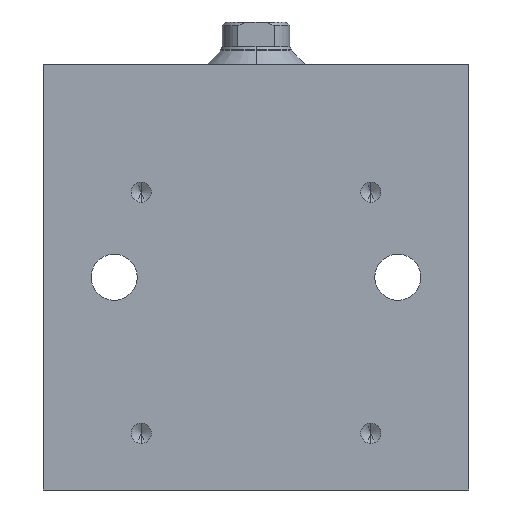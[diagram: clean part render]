
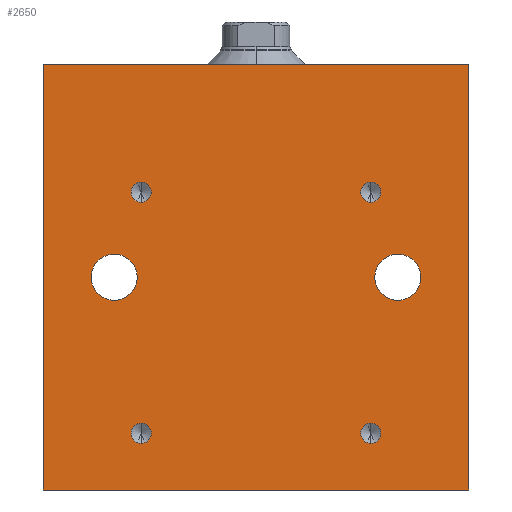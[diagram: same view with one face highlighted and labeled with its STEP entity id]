
A CAD part, left-side view. The second image highlights one B-rep face of the part: STEP entity #2650.
In plain terms, the highlighted planar face has unit normal (-1, 0, 0).
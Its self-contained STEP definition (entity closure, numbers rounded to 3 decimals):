
#12 = ORIENTED_EDGE ( 'NONE', *, *, #91, .F. ) ;
#45 = EDGE_LOOP ( 'NONE', ( #1604, #522, #1491, #3841 ) ) ;
#71 = DIRECTION ( 'NONE',  ( 0., 0., 1. ) ) ;
#88 = CIRCLE ( 'NONE', #1516, 3.25 ) ;
#89 = CARTESIAN_POINT ( 'NONE',  ( -17.5, 30., -66. ) ) ;
#91 = EDGE_CURVE ( 'NONE', #1209, #2430, #3254, .T. ) ;
#116 = AXIS2_PLACEMENT_3D ( 'NONE', #2322, #3571, #789 ) ;
#158 = DIRECTION ( 'NONE',  ( 0., -1., 0. ) ) ;
#194 = ORIENTED_EDGE ( 'NONE', *, *, #2569, .T. ) ;
#224 = VERTEX_POINT ( 'NONE', #3225 ) ;
#268 = ORIENTED_EDGE ( 'NONE', *, *, #2367, .F. ) ;
#308 = DIRECTION ( 'NONE',  ( -1., 0., 0. ) ) ;
#319 = VERTEX_POINT ( 'NONE', #1964 ) ;
#328 = DIRECTION ( 'NONE',  ( 0., 0., 1. ) ) ;
#338 = EDGE_CURVE ( 'NONE', #2947, #1895, #3245, .T. ) ;
#358 = DIRECTION ( 'NONE',  ( -1., 0., 0. ) ) ;
#374 = CARTESIAN_POINT ( 'NONE',  ( -17.5, 16.2, -58. ) ) ;
#446 = EDGE_LOOP ( 'NONE', ( #2433, #1862 ) ) ;
#468 = CARTESIAN_POINT ( 'NONE',  ( -17.5, 16.2, -59.425 ) ) ;
#513 = CIRCLE ( 'NONE', #1666, 1.425 ) ;
#522 = ORIENTED_EDGE ( 'NONE', *, *, #1080, .F. ) ;
#528 = DIRECTION ( 'NONE',  ( 1., 0., 0. ) ) ;
#550 = CARTESIAN_POINT ( 'NONE',  ( -17.5, 16.2, -58. ) ) ;
#588 = CIRCLE ( 'NONE', #2859, 3.25 ) ;
#645 = CARTESIAN_POINT ( 'NONE',  ( -17.5, 30., -66. ) ) ;
#720 = CARTESIAN_POINT ( 'NONE',  ( -17.5, 20., -39.25 ) ) ;
#725 = DIRECTION ( 'NONE',  ( 0., 0., -1. ) ) ;
#748 = FACE_BOUND ( 'NONE', #446, .T. ) ;
#773 = VERTEX_POINT ( 'NONE', #3599 ) ;
#789 = DIRECTION ( 'NONE',  ( 0., 0., -1. ) ) ;
#792 = VECTOR ( 'NONE', #1882, 1000. ) ;
#794 = CARTESIAN_POINT ( 'NONE',  ( -17.5, 20., -32.75 ) ) ;
#813 = VECTOR ( 'NONE', #158, 1000. ) ;
#836 = VERTEX_POINT ( 'NONE', #1764 ) ;
#877 = EDGE_CURVE ( 'NONE', #1253, #2697, #588, .T. ) ;
#972 = VERTEX_POINT ( 'NONE', #3168 ) ;
#1016 = CARTESIAN_POINT ( 'NONE',  ( -17.5, -30., -66. ) ) ;
#1019 = DIRECTION ( 'NONE',  ( -1., 0., 0. ) ) ;
#1030 = AXIS2_PLACEMENT_3D ( 'NONE', #374, #2260, #3473 ) ;
#1058 = CARTESIAN_POINT ( 'NONE',  ( -17.5, 30., -66. ) ) ;
#1080 = EDGE_CURVE ( 'NONE', #2753, #224, #3741, .T. ) ;
#1127 = CIRCLE ( 'NONE', #3417, 1.425 ) ;
#1145 = VERTEX_POINT ( 'NONE', #3566 ) ;
#1209 = VERTEX_POINT ( 'NONE', #1623 ) ;
#1253 = VERTEX_POINT ( 'NONE', #1678 ) ;
#1266 = ORIENTED_EDGE ( 'NONE', *, *, #3710, .F. ) ;
#1322 = DIRECTION ( 'NONE',  ( -1., 0., 0. ) ) ;
#1324 = EDGE_CURVE ( 'NONE', #2430, #1209, #1628, .T. ) ;
#1386 = EDGE_CURVE ( 'NONE', #224, #319, #3822, .T. ) ;
#1430 = AXIS2_PLACEMENT_3D ( 'NONE', #3165, #1019, #2553 ) ;
#1491 = ORIENTED_EDGE ( 'NONE', *, *, #2543, .T. ) ;
#1516 = AXIS2_PLACEMENT_3D ( 'NONE', #3219, #3508, #725 ) ;
#1580 = AXIS2_PLACEMENT_3D ( 'NONE', #3879, #1792, #2405 ) ;
#1604 = ORIENTED_EDGE ( 'NONE', *, *, #1386, .F. ) ;
#1623 = CARTESIAN_POINT ( 'NONE',  ( -17.5, -16.2, -59.425 ) ) ;
#1628 = CIRCLE ( 'NONE', #1430, 1.425 ) ;
#1655 = DIRECTION ( 'NONE',  ( 0., 0., 1. ) ) ;
#1666 = AXIS2_PLACEMENT_3D ( 'NONE', #3149, #358, #3528 ) ;
#1678 = CARTESIAN_POINT ( 'NONE',  ( -17.5, -20., -32.75 ) ) ;
#1715 = ORIENTED_EDGE ( 'NONE', *, *, #3111, .F. ) ;
#1764 = CARTESIAN_POINT ( 'NONE',  ( -17.5, 16.2, -22.575 ) ) ;
#1767 = CARTESIAN_POINT ( 'NONE',  ( -17.5, -16.2, -56.575 ) ) ;
#1792 = DIRECTION ( 'NONE',  ( -1., 0., 0. ) ) ;
#1793 = AXIS2_PLACEMENT_3D ( 'NONE', #3249, #528, #2047 ) ;
#1840 = EDGE_CURVE ( 'NONE', #836, #3819, #2706, .T. ) ;
#1862 = ORIENTED_EDGE ( 'NONE', *, *, #877, .T. ) ;
#1882 = DIRECTION ( 'NONE',  ( 0., 0., 1. ) ) ;
#1894 = AXIS2_PLACEMENT_3D ( 'NONE', #2172, #2486, #3725 ) ;
#1895 = VERTEX_POINT ( 'NONE', #720 ) ;
#1912 = CIRCLE ( 'NONE', #1580, 1.425 ) ;
#1964 = CARTESIAN_POINT ( 'NONE',  ( -17.5, -30., -6. ) ) ;
#1994 = ORIENTED_EDGE ( 'NONE', *, *, #2789, .F. ) ;
#2011 = EDGE_CURVE ( 'NONE', #2697, #1253, #2180, .T. ) ;
#2027 = CARTESIAN_POINT ( 'NONE',  ( -17.5, -20., -36. ) ) ;
#2047 = DIRECTION ( 'NONE',  ( 0., 0., -1. ) ) ;
#2094 = DIRECTION ( 'NONE',  ( -1., 0., 0. ) ) ;
#2172 = CARTESIAN_POINT ( 'NONE',  ( -17.5, -16.2, -58. ) ) ;
#2180 = CIRCLE ( 'NONE', #1793, 3.25 ) ;
#2254 = ORIENTED_EDGE ( 'NONE', *, *, #1840, .F. ) ;
#2260 = DIRECTION ( 'NONE',  ( -1., 0., 0. ) ) ;
#2322 = CARTESIAN_POINT ( 'NONE',  ( -17.5, 20., -36. ) ) ;
#2345 = LINE ( 'NONE', #1058, #813 ) ;
#2367 = EDGE_CURVE ( 'NONE', #972, #1145, #1912, .T. ) ;
#2405 = DIRECTION ( 'NONE',  ( 0., 0., 1. ) ) ;
#2409 = CARTESIAN_POINT ( 'NONE',  ( -17.5, 30., -6. ) ) ;
#2430 = VERTEX_POINT ( 'NONE', #1767 ) ;
#2433 = ORIENTED_EDGE ( 'NONE', *, *, #2011, .T. ) ;
#2472 = CARTESIAN_POINT ( 'NONE',  ( -17.5, 16.2, -24. ) ) ;
#2486 = DIRECTION ( 'NONE',  ( -1., 0., 0. ) ) ;
#2495 = DIRECTION ( 'NONE',  ( -1., 0., 0. ) ) ;
#2507 = AXIS2_PLACEMENT_3D ( 'NONE', #89, #1322, #71 ) ;
#2543 = EDGE_CURVE ( 'NONE', #2753, #3197, #2345, .T. ) ;
#2544 = FACE_BOUND ( 'NONE', #3166, .T. ) ;
#2549 = EDGE_LOOP ( 'NONE', ( #2254, #1994 ) ) ;
#2553 = DIRECTION ( 'NONE',  ( 0., 0., 1. ) ) ;
#2569 = EDGE_CURVE ( 'NONE', #1895, #2947, #88, .T. ) ;
#2613 = FACE_BOUND ( 'NONE', #2549, .T. ) ;
#2640 = CARTESIAN_POINT ( 'NONE',  ( -17.5, -30., -66. ) ) ;
#2650 = ADVANCED_FACE ( 'NONE', ( #2613, #2544, #3836, #3783, #3552, #748, #3479 ), #3851, .T. ) ;
#2663 = DIRECTION ( 'NONE',  ( 0., 0., -1. ) ) ;
#2697 = VERTEX_POINT ( 'NONE', #2868 ) ;
#2706 = CIRCLE ( 'NONE', #2899, 1.425 ) ;
#2753 = VERTEX_POINT ( 'NONE', #3284 ) ;
#2776 = EDGE_LOOP ( 'NONE', ( #1715, #3907 ) ) ;
#2789 = EDGE_CURVE ( 'NONE', #3819, #836, #1127, .T. ) ;
#2854 = CIRCLE ( 'NONE', #1030, 1.425 ) ;
#2859 = AXIS2_PLACEMENT_3D ( 'NONE', #2027, #3269, #2663 ) ;
#2868 = CARTESIAN_POINT ( 'NONE',  ( -17.5, -20., -39.25 ) ) ;
#2897 = LINE ( 'NONE', #1016, #2917 ) ;
#2899 = AXIS2_PLACEMENT_3D ( 'NONE', #2472, #2495, #3389 ) ;
#2906 = EDGE_LOOP ( 'NONE', ( #194, #3097 ) ) ;
#2917 = VECTOR ( 'NONE', #1655, 1000. ) ;
#2947 = VERTEX_POINT ( 'NONE', #794 ) ;
#3092 = VERTEX_POINT ( 'NONE', #468 ) ;
#3097 = ORIENTED_EDGE ( 'NONE', *, *, #338, .T. ) ;
#3111 = EDGE_CURVE ( 'NONE', #773, #3092, #3176, .T. ) ;
#3149 = CARTESIAN_POINT ( 'NONE',  ( -17.5, -16.2, -24. ) ) ;
#3165 = CARTESIAN_POINT ( 'NONE',  ( -17.5, -16.2, -58. ) ) ;
#3166 = EDGE_LOOP ( 'NONE', ( #1266, #268 ) ) ;
#3168 = CARTESIAN_POINT ( 'NONE',  ( -17.5, -16.2, -25.425 ) ) ;
#3176 = CIRCLE ( 'NONE', #3443, 1.425 ) ;
#3197 = VERTEX_POINT ( 'NONE', #2640 ) ;
#3219 = CARTESIAN_POINT ( 'NONE',  ( -17.5, 20., -36. ) ) ;
#3225 = CARTESIAN_POINT ( 'NONE',  ( -17.5, 30., -6. ) ) ;
#3245 = CIRCLE ( 'NONE', #116, 3.25 ) ;
#3249 = CARTESIAN_POINT ( 'NONE',  ( -17.5, -20., -36. ) ) ;
#3254 = CIRCLE ( 'NONE', #1894, 1.425 ) ;
#3269 = DIRECTION ( 'NONE',  ( 1., 0., 0. ) ) ;
#3284 = CARTESIAN_POINT ( 'NONE',  ( -17.5, 30., -66. ) ) ;
#3335 = DIRECTION ( 'NONE',  ( 0., 0., 1. ) ) ;
#3338 = DIRECTION ( 'NONE',  ( 0., -1., 0. ) ) ;
#3389 = DIRECTION ( 'NONE',  ( 0., 0., 1. ) ) ;
#3417 = AXIS2_PLACEMENT_3D ( 'NONE', #3426, #308, #328 ) ;
#3426 = CARTESIAN_POINT ( 'NONE',  ( -17.5, 16.2, -24. ) ) ;
#3443 = AXIS2_PLACEMENT_3D ( 'NONE', #550, #2094, #3335 ) ;
#3466 = EDGE_CURVE ( 'NONE', #3197, #319, #2897, .T. ) ;
#3473 = DIRECTION ( 'NONE',  ( 0., 0., 1. ) ) ;
#3479 = FACE_OUTER_BOUND ( 'NONE', #45, .T. ) ;
#3508 = DIRECTION ( 'NONE',  ( 1., 0., 0. ) ) ;
#3511 = CARTESIAN_POINT ( 'NONE',  ( -17.5, 16.2, -25.425 ) ) ;
#3528 = DIRECTION ( 'NONE',  ( 0., 0., 1. ) ) ;
#3552 = FACE_BOUND ( 'NONE', #2906, .T. ) ;
#3566 = CARTESIAN_POINT ( 'NONE',  ( -17.5, -16.2, -22.575 ) ) ;
#3571 = DIRECTION ( 'NONE',  ( 1., 0., 0. ) ) ;
#3599 = CARTESIAN_POINT ( 'NONE',  ( -17.5, 16.2, -56.575 ) ) ;
#3656 = VECTOR ( 'NONE', #3338, 1000. ) ;
#3710 = EDGE_CURVE ( 'NONE', #1145, #972, #513, .T. ) ;
#3725 = DIRECTION ( 'NONE',  ( 0., 0., 1. ) ) ;
#3741 = LINE ( 'NONE', #645, #792 ) ;
#3774 = EDGE_CURVE ( 'NONE', #3092, #773, #2854, .T. ) ;
#3783 = FACE_BOUND ( 'NONE', #2776, .T. ) ;
#3819 = VERTEX_POINT ( 'NONE', #3511 ) ;
#3822 = LINE ( 'NONE', #2409, #3656 ) ;
#3836 = FACE_BOUND ( 'NONE', #3915, .T. ) ;
#3841 = ORIENTED_EDGE ( 'NONE', *, *, #3466, .T. ) ;
#3851 = PLANE ( 'NONE',  #2507 ) ;
#3879 = CARTESIAN_POINT ( 'NONE',  ( -17.5, -16.2, -24. ) ) ;
#3907 = ORIENTED_EDGE ( 'NONE', *, *, #3774, .F. ) ;
#3915 = EDGE_LOOP ( 'NONE', ( #4013, #12 ) ) ;
#4013 = ORIENTED_EDGE ( 'NONE', *, *, #1324, .F. ) ;
